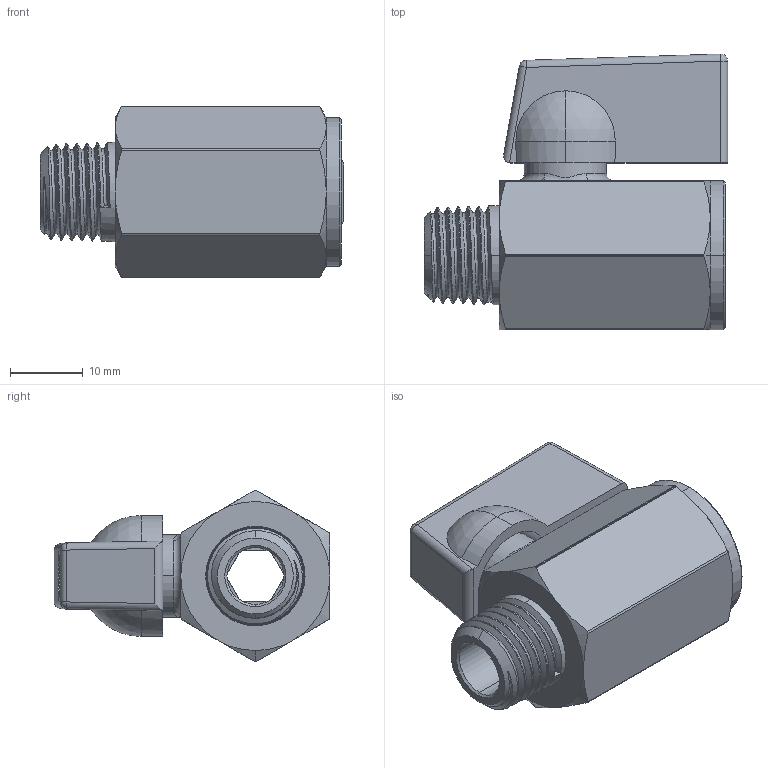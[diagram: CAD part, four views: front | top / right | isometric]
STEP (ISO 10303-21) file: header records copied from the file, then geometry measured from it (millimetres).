
FILE_DESCRIPTION (( 'STEP AP214' ), '1' );
FILE_NAME ('100-441.STEP', '2025-11-06T16:38:29', ( '' ), ( '' ), 'SwSTEP 2.0', 'SolidWorks 2025', '' );
FILE_SCHEMA (( 'AUTOMOTIVE_DESIGN' ));
Length unit declared in the file: inch
Products named in the file (10): 1051_____12.STEP; 100-441; 1062__-0_1.STEP; 12_______10.STEP; O-ring_12.STEP; 1062___3.STEP; _____12.STEP; 1062.STEP; 31_______12.STEP; 14___10.STEP
Assembly tree (11 placements, depth 3):
  100-441
    1062.STEP
      1051_____12.STEP
      12_______10.STEP  x2
      14___10.STEP
      31_______12.STEP
      O-ring_12.STEP  x2
      _____12.STEP
      1062___3.STEP
      1062__-0_1.STEP
Bounding box: 41.7 x 37.92 x 23.5 mm (x, y, z)
Volume: 12722.5 mm3; surface area: 12976.2 mm2
Topology: 10 solids, 10 shells, 384 faces, 962 edges, 607 vertices
Faces by surface type: cylinder 132, plane 92, cone 78, bspline 34, torus 28, sphere 20
Entity records: 28698 total; most frequent: CARTESIAN_POINT 20090, ORIENTED_EDGE 1836, DIRECTION 1669, EDGE_CURVE 918, AXIS2_PLACEMENT_3D 680, VERTEX_POINT 583, EDGE_LOOP 391, ADVANCED_FACE 364
